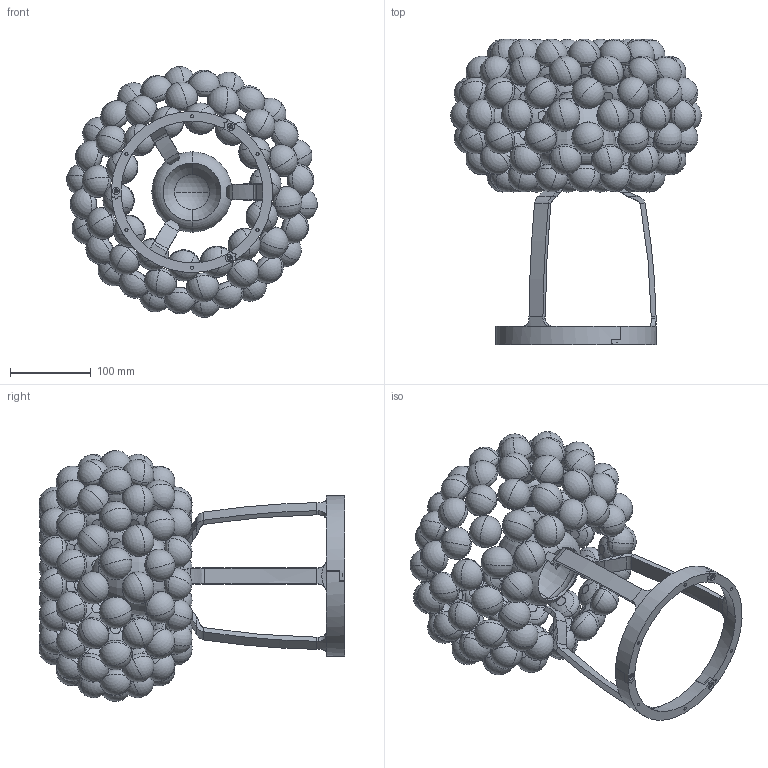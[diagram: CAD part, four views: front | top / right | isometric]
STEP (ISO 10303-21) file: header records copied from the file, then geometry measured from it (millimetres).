
FILE_DESCRIPTION (( 'STEP AP214' ), '1' );
FILE_NAME ('311_PICCOLA_T_LD_3D.STEP', '2021-05-21T08:38:32', ( '' ), ( '' ), 'SwSTEP 2.0', 'SolidWorks 2021', '' );
FILE_SCHEMA (( 'AUTOMOTIVE_DESIGN' ));
Length unit declared in the file: millimetre
Products named in the file (1): 311_PICCOLA_T_LD_3D
Bounding box: 311.26 x 379.45 x 311.3 mm (x, y, z)
Volume: 2938008.1 mm3; surface area: 558595.5 mm2
Topology: 102 solids, 102 shells, 1139 faces, 2629 edges, 1507 vertices
Faces by surface type: sphere 396, cylinder 273, torus 204, plane 152, bspline 87, cone 27
Entity records: 48944 total; most frequent: CARTESIAN_POINT 11891, DIRECTION 5440, ORIENTED_EDGE 4462, AXIS2_PLACEMENT_3D 2519, EDGE_CURVE 2231, CIRCLE 1466, VERTEX_POINT 1311, UNCERTAINTY_MEASURE_WITH_UNIT 1243
